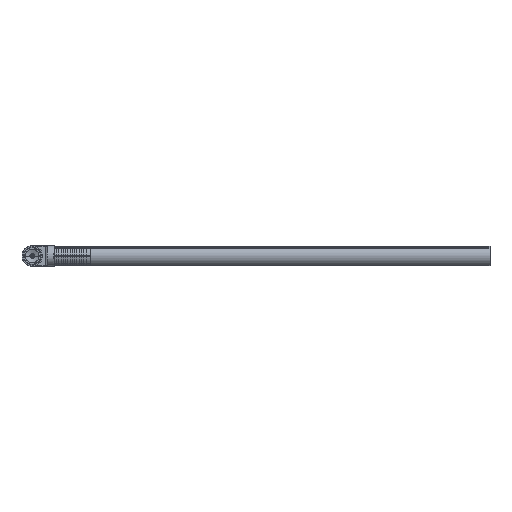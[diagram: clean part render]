
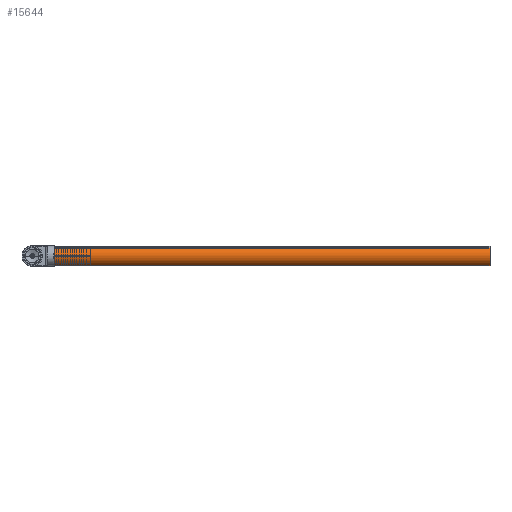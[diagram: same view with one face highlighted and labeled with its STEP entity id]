
A CAD part, left-side view. The second image highlights one B-rep face of the part: STEP entity #15644.
In plain terms, the highlighted cylindrical face has radius 13.716 mm (diameter 27.432 mm), a partial arc.
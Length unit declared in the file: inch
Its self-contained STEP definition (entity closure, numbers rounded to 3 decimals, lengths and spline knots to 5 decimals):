
#1090 = CIRCLE ( 'NONE', #5987, 0.54 ) ;
#2236 = ORIENTED_EDGE ( 'NONE', *, *, #29325, .T. ) ;
#2571 = CARTESIAN_POINT ( 'NONE',  ( 0., 0., 0. ) ) ;
#2783 = EDGE_CURVE ( 'NONE', #25018, #20881, #1090, .T. ) ;
#2966 = CYLINDRICAL_SURFACE ( 'NONE', #32148, 0.54 ) ;
#5231 = CARTESIAN_POINT ( 'NONE',  ( -24., 0., 0. ) ) ;
#5629 = CARTESIAN_POINT ( 'NONE',  ( 0., 0., 0.54 ) ) ;
#5803 = LINE ( 'NONE', #12058, #24015 ) ;
#5987 = AXIS2_PLACEMENT_3D ( 'NONE', #5231, #22536, #7747 ) ;
#6399 = CARTESIAN_POINT ( 'NONE',  ( 0., 0., 0. ) ) ;
#7747 = DIRECTION ( 'NONE',  ( 0., 0., -1. ) ) ;
#8459 = EDGE_LOOP ( 'NONE', ( #29609, #2236, #17415, #21911 ) ) ;
#8888 = DIRECTION ( 'NONE',  ( 0., 0., -1. ) ) ;
#12058 = CARTESIAN_POINT ( 'NONE',  ( 0., 0., -0.54 ) ) ;
#12198 = CIRCLE ( 'NONE', #29443, 0.54 ) ;
#12362 = DIRECTION ( 'NONE',  ( 1., 0., 0. ) ) ;
#12580 = VERTEX_POINT ( 'NONE', #25472 ) ;
#13223 = CARTESIAN_POINT ( 'NONE',  ( -24., 0., -0.54 ) ) ;
#13771 = CARTESIAN_POINT ( 'NONE',  ( -24., 0., 0.54 ) ) ;
#14414 = VERTEX_POINT ( 'NONE', #5629 ) ;
#15644 = ADVANCED_FACE ( 'NONE', ( #22733 ), #2966, .T. ) ;
#17252 = LINE ( 'NONE', #20412, #23835 ) ;
#17415 = ORIENTED_EDGE ( 'NONE', *, *, #30258, .F. ) ;
#20313 = DIRECTION ( 'NONE',  ( 1., 0., 0. ) ) ;
#20412 = CARTESIAN_POINT ( 'NONE',  ( 0., 0., 0.54 ) ) ;
#20881 = VERTEX_POINT ( 'NONE', #13771 ) ;
#21911 = ORIENTED_EDGE ( 'NONE', *, *, #23827, .F. ) ;
#22068 = DIRECTION ( 'NONE',  ( 0., 0., -1. ) ) ;
#22536 = DIRECTION ( 'NONE',  ( 1., 0., 0. ) ) ;
#22733 = FACE_OUTER_BOUND ( 'NONE', #8459, .T. ) ;
#23703 = DIRECTION ( 'NONE',  ( 1., 0., 0. ) ) ;
#23827 = EDGE_CURVE ( 'NONE', #25018, #12580, #5803, .T. ) ;
#23835 = VECTOR ( 'NONE', #20313, 39.37008 ) ;
#24015 = VECTOR ( 'NONE', #12362, 39.37008 ) ;
#25018 = VERTEX_POINT ( 'NONE', #13223 ) ;
#25472 = CARTESIAN_POINT ( 'NONE',  ( 0., 0., -0.54 ) ) ;
#29325 = EDGE_CURVE ( 'NONE', #20881, #14414, #17252, .T. ) ;
#29443 = AXIS2_PLACEMENT_3D ( 'NONE', #6399, #23703, #8888 ) ;
#29609 = ORIENTED_EDGE ( 'NONE', *, *, #2783, .T. ) ;
#29803 = DIRECTION ( 'NONE',  ( 1., 0., 0. ) ) ;
#30258 = EDGE_CURVE ( 'NONE', #12580, #14414, #12198, .T. ) ;
#32148 = AXIS2_PLACEMENT_3D ( 'NONE', #2571, #29803, #22068 ) ;
